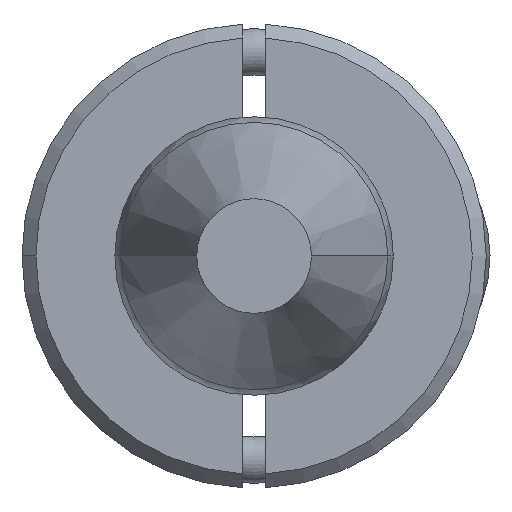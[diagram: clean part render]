
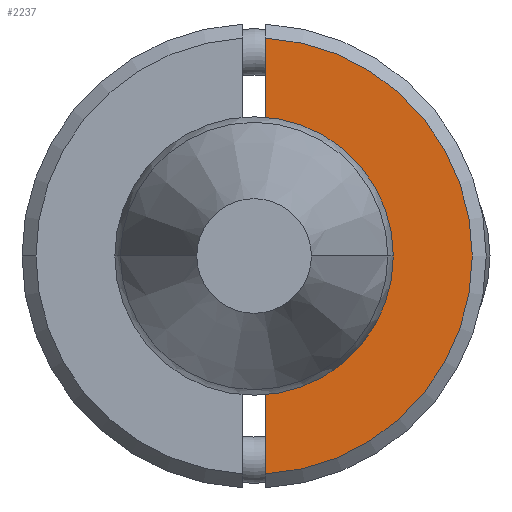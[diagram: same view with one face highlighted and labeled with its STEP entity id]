
A CAD part, front view. The second image highlights one B-rep face of the part: STEP entity #2237.
In plain terms, the highlighted planar face has unit normal (0, -1, 0).
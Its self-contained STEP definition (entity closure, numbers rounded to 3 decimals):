
#92 = CARTESIAN_POINT ( 'NONE',  ( 0., -6., 0. ) ) ;
#148 = VERTEX_POINT ( 'NONE', #3244 ) ;
#159 = CARTESIAN_POINT ( 'NONE',  ( -5., -6., -0.25 ) ) ;
#203 = VERTEX_POINT ( 'NONE', #1884 ) ;
#307 = DIRECTION ( 'NONE',  ( 0., 0., -1. ) ) ;
#388 = EDGE_CURVE ( 'NONE', #3565, #203, #450, .T. ) ;
#450 = LINE ( 'NONE', #159, #2808 ) ;
#671 = DIRECTION ( 'NONE',  ( 0., -1., 0. ) ) ;
#741 = CIRCLE ( 'NONE', #2275, 2.45 ) ;
#742 = AXIS2_PLACEMENT_3D ( 'NONE', #2416, #671, #307 ) ;
#748 = ORIENTED_EDGE ( 'NONE', *, *, #3114, .F. ) ;
#839 = CIRCLE ( 'NONE', #3561, 4.7 ) ;
#902 = DIRECTION ( 'NONE',  ( 0., 1., 0. ) ) ;
#929 = EDGE_CURVE ( 'NONE', #1256, #148, #741, .T. ) ;
#1057 = DIRECTION ( 'NONE',  ( 1., 0., 0. ) ) ;
#1083 = CARTESIAN_POINT ( 'NONE',  ( 2.437, -6., -0.25 ) ) ;
#1190 = CARTESIAN_POINT ( 'NONE',  ( -4.693, -6., -0.25 ) ) ;
#1244 = DIRECTION ( 'NONE',  ( 1., 0., 0. ) ) ;
#1256 = VERTEX_POINT ( 'NONE', #1083 ) ;
#1290 = ORIENTED_EDGE ( 'NONE', *, *, #929, .T. ) ;
#1339 = DIRECTION ( 'NONE',  ( 0., 0., -1. ) ) ;
#1477 = DIRECTION ( 'NONE',  ( 0., 0., -1. ) ) ;
#1528 = LINE ( 'NONE', #2713, #2563 ) ;
#1535 = CARTESIAN_POINT ( 'NONE',  ( 0., -6., 0. ) ) ;
#1580 = CARTESIAN_POINT ( 'NONE',  ( 4.693, -6., -0.25 ) ) ;
#1656 = CIRCLE ( 'NONE', #2347, 2.45 ) ;
#1785 = DIRECTION ( 'NONE',  ( 0., 0., -1. ) ) ;
#1801 = CARTESIAN_POINT ( 'NONE',  ( 0., -6., 0. ) ) ;
#1884 = CARTESIAN_POINT ( 'NONE',  ( -2.437, -6., -0.25 ) ) ;
#2237 = ADVANCED_FACE ( 'NONE', ( #3620 ), #2375, .T. ) ;
#2275 = AXIS2_PLACEMENT_3D ( 'NONE', #1535, #902, #1477 ) ;
#2320 = ORIENTED_EDGE ( 'NONE', *, *, #3480, .T. ) ;
#2347 = AXIS2_PLACEMENT_3D ( 'NONE', #1801, #2429, #1785 ) ;
#2375 = PLANE ( 'NONE',  #742 ) ;
#2416 = CARTESIAN_POINT ( 'NONE',  ( -5., -6., 0. ) ) ;
#2429 = DIRECTION ( 'NONE',  ( 0., 1., 0. ) ) ;
#2563 = VECTOR ( 'NONE', #1244, 1000. ) ;
#2656 = ORIENTED_EDGE ( 'NONE', *, *, #388, .F. ) ;
#2713 = CARTESIAN_POINT ( 'NONE',  ( -5., -6., -0.25 ) ) ;
#2807 = EDGE_CURVE ( 'NONE', #3565, #3302, #839, .T. ) ;
#2808 = VECTOR ( 'NONE', #1057, 1000. ) ;
#2812 = DIRECTION ( 'NONE',  ( 0., -1., 0. ) ) ;
#2832 = EDGE_LOOP ( 'NONE', ( #2656, #3112, #748, #1290, #2320 ) ) ;
#3112 = ORIENTED_EDGE ( 'NONE', *, *, #2807, .T. ) ;
#3114 = EDGE_CURVE ( 'NONE', #1256, #3302, #1528, .T. ) ;
#3244 = CARTESIAN_POINT ( 'NONE',  ( 0., -6., -2.45 ) ) ;
#3302 = VERTEX_POINT ( 'NONE', #1580 ) ;
#3480 = EDGE_CURVE ( 'NONE', #148, #203, #1656, .T. ) ;
#3561 = AXIS2_PLACEMENT_3D ( 'NONE', #92, #2812, #1339 ) ;
#3565 = VERTEX_POINT ( 'NONE', #1190 ) ;
#3620 = FACE_OUTER_BOUND ( 'NONE', #2832, .T. ) ;
